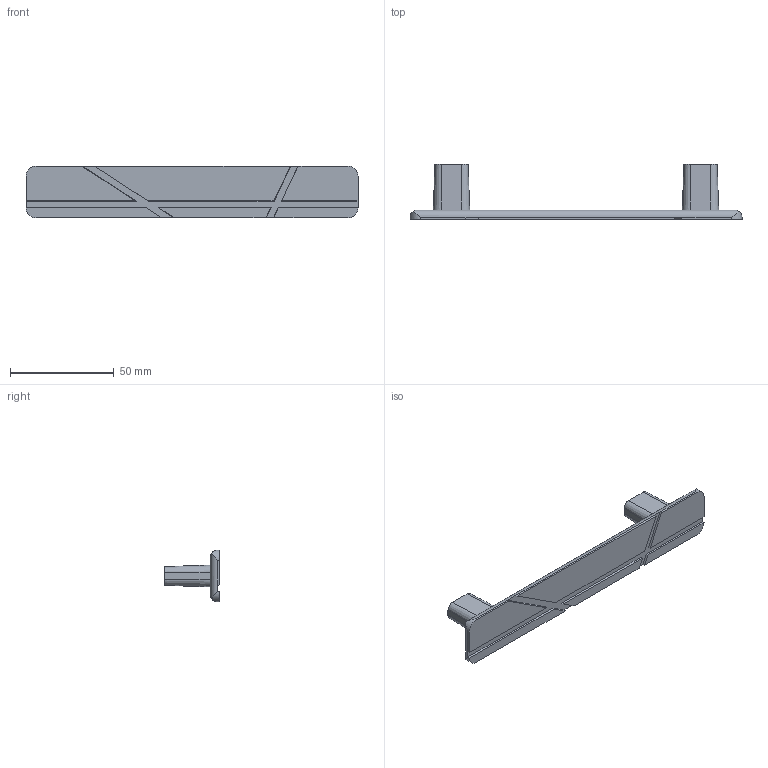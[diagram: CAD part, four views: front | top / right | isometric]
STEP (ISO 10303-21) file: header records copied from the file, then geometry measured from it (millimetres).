
FILE_DESCRIPTION( ( '' ), '1' );
FILE_NAME( 'C:/Documents and Settings/Sachin/Desktop/Sheet 10_1/stp/9082136.stp', '2013-10-22T10:37:35', ( '' ), ( '' ), ' ', ' ', ' ' );
FILE_SCHEMA( ( 'CONFIG_CONTROL_DESIGN' ) );
Length unit declared in the file: millimetre
Products named in the file (1): 1
Bounding box: 160 x 26.5 x 25 mm (x, y, z)
Volume: 22366.3 mm3; surface area: 12054.2 mm2
Topology: 1 solids, 1 shells, 68 faces, 170 edges, 110 vertices
Faces by surface type: plane 44, cylinder 12, cone 12
Entity records: 2158 total; most frequent: CARTESIAN_POINT 461, DIRECTION 344, ORIENTED_EDGE 340, EDGE_CURVE 170, LINE 118, VECTOR 118, AXIS2_PLACEMENT_3D 113, VERTEX_POINT 110
